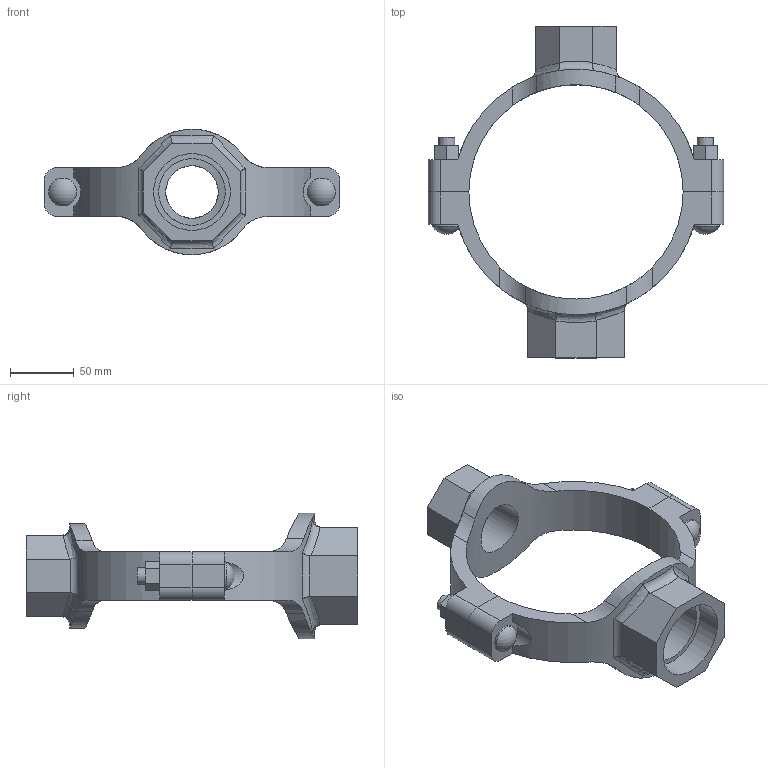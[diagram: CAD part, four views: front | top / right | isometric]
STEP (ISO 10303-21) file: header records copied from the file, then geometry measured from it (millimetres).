
FILE_DESCRIPTION(/* description */ ('VIC MECH-T BRANCH OUTLET CROSS STYLE 920N (THD)','CAx-IF Rec.Pracs.---Representation and Presentation of Product Manufacturing Information (PMI)---4.0---2014-10-13'),/* implementation_level */ '2;1');
FILE_NAME(/* name */ 'C:\Users\Vjadhav\AppData\Roaming\Autodesk\ApplicationPlugins\Back Up\Victaulic_IPS_Mechanical-Cross Outlet_Style 920N (FPT)\Victaulic_IPS_Mechanical-Cross Outlet_06.0x01.5x02.0 (150x40x50).stp',/* time_stamp */ '2020-08-06T18:59:34+05:00',/* author */ ('Vjadhav'),/* organization */ ('Victaulic'),/* preprocessor_version */ 'ST-DEVELOPER v17.2',/* originating_system */ 'Autodesk Inventor 2019',/* authorisation */ '');
FILE_SCHEMA (('AP242_MANAGED_MODEL_BASED_3D_ENGINEERING_MIM_LF { 1 0 10303 442 1 1 4 }'));
Length unit declared in the file: inch
Products named in the file (3): 920NT-06.0x01.5x02.0; 920NT-06.0x01.5; 920NT-06.0x02.0
Assembly tree (2 placements, depth 2):
  920NT-06.0x01.5x02.0
    920NT-06.0x01.5
    920NT-06.0x02.0
Bounding box: 231.9 x 260.6 x 98.55 mm (x, y, z)
Volume: 525920.5 mm3; surface area: 119567.9 mm2
Topology: 2 solids, 2 shells, 132 faces, 350 edges, 236 vertices
Faces by surface type: plane 68, cylinder 50, bspline 8, torus 4, sphere 2
Full cylindrical faces by diameter (mm): 12.7 x4, 21.982 x2, 41.275 x1, 48.26 x1, 52.387 x1, 60.325 x1
Entity records: 5218 total; most frequent: CARTESIAN_POINT 1705, ORIENTED_EDGE 700, DIRECTION 648, EDGE_CURVE 350, VERTEX_POINT 236, AXIS2_PLACEMENT_3D 231, LINE 186, VECTOR 186
